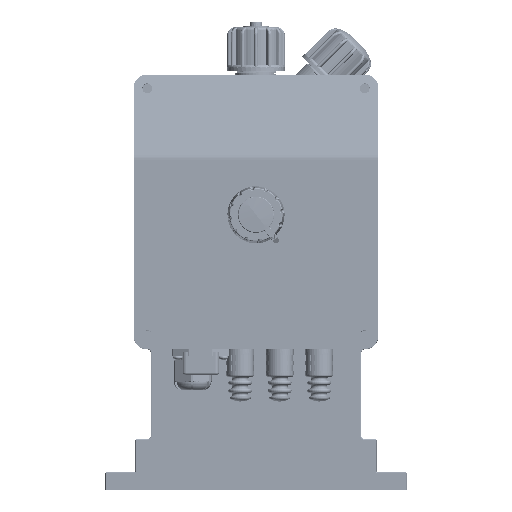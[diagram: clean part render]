
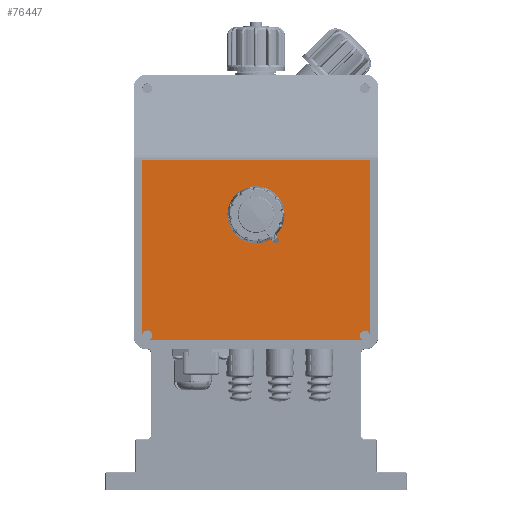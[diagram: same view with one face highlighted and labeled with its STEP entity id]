
A CAD part, top view. The second image highlights one B-rep face of the part: STEP entity #76447.
In plain terms, the highlighted planar face has unit normal (0, 0, 1) as drawn and (0, 0, -1) by its records, which use the part's own axes.
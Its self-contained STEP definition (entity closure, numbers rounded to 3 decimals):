
#2838 = AXIS2_PLACEMENT_3D ( 'NONE', #161219, #72800, #176074 ) ;
#3270 = ORIENTED_EDGE ( 'NONE', *, *, #92428, .F. ) ;
#5489 = EDGE_CURVE ( 'NONE', #176859, #31584, #140353, .T. ) ;
#6623 = EDGE_CURVE ( 'NONE', #33475, #31584, #10711, .T. ) ;
#8691 = DIRECTION ( 'NONE',  ( -1., 0., 0. ) ) ;
#10711 = LINE ( 'NONE', #128170, #40714 ) ;
#13046 = DIRECTION ( 'NONE',  ( 0., 1., 0. ) ) ;
#17607 = EDGE_CURVE ( 'NONE', #33475, #132598, #183330, .T. ) ;
#24869 = DIRECTION ( 'NONE',  ( 1., 0., 0. ) ) ;
#28415 = CARTESIAN_POINT ( 'NONE',  ( -57.51, 26.099, 10. ) ) ;
#28596 = EDGE_CURVE ( 'NONE', #132598, #110542, #87760, .T. ) ;
#28600 = VERTEX_POINT ( 'NONE', #146333 ) ;
#29628 = DIRECTION ( 'NONE',  ( -1., 0., 0. ) ) ;
#29912 = CARTESIAN_POINT ( 'NONE',  ( 52.49, -62.5, 10. ) ) ;
#30117 = CIRCLE ( 'NONE', #84918, 8.125 ) ;
#31584 = VERTEX_POINT ( 'NONE', #104092 ) ;
#32910 = EDGE_LOOP ( 'NONE', ( #166672, #3270 ) ) ;
#33475 = VERTEX_POINT ( 'NONE', #28415 ) ;
#33690 = FACE_BOUND ( 'NONE', #32910, .T. ) ;
#35422 = ORIENTED_EDGE ( 'NONE', *, *, #6623, .T. ) ;
#37335 = AXIS2_PLACEMENT_3D ( 'NONE', #137565, #49114, #152469 ) ;
#40714 = VECTOR ( 'NONE', #24869, 1000. ) ;
#43033 = FACE_OUTER_BOUND ( 'NONE', #120714, .T. ) ;
#48319 = EDGE_CURVE ( 'NONE', #110542, #160366, #132466, .T. ) ;
#49114 = DIRECTION ( 'NONE',  ( 0., 0., -1. ) ) ;
#49264 = CARTESIAN_POINT ( 'NONE',  ( -8.125, -1.5, 10. ) ) ;
#51002 = CARTESIAN_POINT ( 'NONE',  ( -57.51, -62.5, 10. ) ) ;
#54648 = AXIS2_PLACEMENT_3D ( 'NONE', #173047, #84573, #187950 ) ;
#56172 = LINE ( 'NONE', #173425, #164681 ) ;
#58723 = CARTESIAN_POINT ( 'NONE',  ( 50., -65., 10. ) ) ;
#63542 = ORIENTED_EDGE ( 'NONE', *, *, #158303, .F. ) ;
#64914 = AXIS2_PLACEMENT_3D ( 'NONE', #185650, #97143, #8691 ) ;
#65149 = AXIS2_PLACEMENT_3D ( 'NONE', #86644, #189981, #101485 ) ;
#66518 = CARTESIAN_POINT ( 'NONE',  ( 0., -1.5, 10. ) ) ;
#71652 = DIRECTION ( 'NONE',  ( 0., -1., 0. ) ) ;
#72800 = DIRECTION ( 'NONE',  ( 0., 0., -1. ) ) ;
#74954 = EDGE_CURVE ( 'NONE', #28600, #142628, #140989, .T. ) ;
#76447 = ADVANCED_FACE ( 'NONE', ( #43033, #33690 ), #103252, .T. ) ;
#79707 = ORIENTED_EDGE ( 'NONE', *, *, #17607, .F. ) ;
#81332 = DIRECTION ( 'NONE',  ( -1., 0., 0. ) ) ;
#84573 = DIRECTION ( 'NONE',  ( 0., 0., -1. ) ) ;
#84918 = AXIS2_PLACEMENT_3D ( 'NONE', #66518, #169745, #81332 ) ;
#86644 = CARTESIAN_POINT ( 'NONE',  ( 55., -62.5, 10. ) ) ;
#87760 = CIRCLE ( 'NONE', #2838, 2.51 ) ;
#90681 = ORIENTED_EDGE ( 'NONE', *, *, #5489, .F. ) ;
#92428 = EDGE_CURVE ( 'NONE', #142628, #28600, #30117, .T. ) ;
#97143 = DIRECTION ( 'NONE',  ( 0., 0., -1. ) ) ;
#97994 = CIRCLE ( 'NONE', #64914, 2.51 ) ;
#99792 = DIRECTION ( 'NONE',  ( 1., 0., 0. ) ) ;
#99846 = VERTEX_POINT ( 'NONE', #29912 ) ;
#100143 = VECTOR ( 'NONE', #71652, 1000. ) ;
#101122 = VECTOR ( 'NONE', #13046, 1000. ) ;
#101485 = DIRECTION ( 'NONE',  ( -1., 0., 0. ) ) ;
#101514 = CARTESIAN_POINT ( 'NONE',  ( 57.51, 62.5, 10. ) ) ;
#103252 = PLANE ( 'NONE',  #144589 ) ;
#104092 = CARTESIAN_POINT ( 'NONE',  ( 57.51, 26.099, 10. ) ) ;
#110542 = VERTEX_POINT ( 'NONE', #111016 ) ;
#111016 = CARTESIAN_POINT ( 'NONE',  ( -52.49, -62.5, 10. ) ) ;
#115599 = EDGE_CURVE ( 'NONE', #160366, #145961, #56172, .T. ) ;
#118097 = DIRECTION ( 'NONE',  ( 0., 0., -1. ) ) ;
#120714 = EDGE_LOOP ( 'NONE', ( #131907, #79707, #35422, #90681, #159011, #63542, #157211, #167557 ) ) ;
#121706 = CIRCLE ( 'NONE', #65149, 2.51 ) ;
#128170 = CARTESIAN_POINT ( 'NONE',  ( 50., 26.099, 10. ) ) ;
#129697 = CARTESIAN_POINT ( 'NONE',  ( -57.51, -62.5, 10. ) ) ;
#131907 = ORIENTED_EDGE ( 'NONE', *, *, #28596, .F. ) ;
#132466 = CIRCLE ( 'NONE', #37335, 2.51 ) ;
#132598 = VERTEX_POINT ( 'NONE', #51002 ) ;
#137565 = CARTESIAN_POINT ( 'NONE',  ( -55., -62.5, 10. ) ) ;
#140353 = LINE ( 'NONE', #101514, #101122 ) ;
#140989 = CIRCLE ( 'NONE', #54648, 8.125 ) ;
#142628 = VERTEX_POINT ( 'NONE', #49264 ) ;
#144589 = AXIS2_PLACEMENT_3D ( 'NONE', #58723, #118097, #29628 ) ;
#145961 = VERTEX_POINT ( 'NONE', #151003 ) ;
#146333 = CARTESIAN_POINT ( 'NONE',  ( 8.125, -1.5, 10. ) ) ;
#146669 = EDGE_CURVE ( 'NONE', #99846, #176859, #97994, .T. ) ;
#151003 = CARTESIAN_POINT ( 'NONE',  ( 55., -65.01, 10. ) ) ;
#152469 = DIRECTION ( 'NONE',  ( -1., 0., 0. ) ) ;
#155192 = CARTESIAN_POINT ( 'NONE',  ( 57.51, -62.5, 10. ) ) ;
#157211 = ORIENTED_EDGE ( 'NONE', *, *, #115599, .F. ) ;
#158303 = EDGE_CURVE ( 'NONE', #145961, #99846, #121706, .T. ) ;
#159011 = ORIENTED_EDGE ( 'NONE', *, *, #146669, .F. ) ;
#160366 = VERTEX_POINT ( 'NONE', #185572 ) ;
#161219 = CARTESIAN_POINT ( 'NONE',  ( -55., -62.5, 10. ) ) ;
#164681 = VECTOR ( 'NONE', #99792, 1000. ) ;
#166672 = ORIENTED_EDGE ( 'NONE', *, *, #74954, .F. ) ;
#167557 = ORIENTED_EDGE ( 'NONE', *, *, #48319, .F. ) ;
#169745 = DIRECTION ( 'NONE',  ( 0., 0., -1. ) ) ;
#173047 = CARTESIAN_POINT ( 'NONE',  ( 0., -1.5, 10. ) ) ;
#173425 = CARTESIAN_POINT ( 'NONE',  ( 55., -65.01, 10. ) ) ;
#176074 = DIRECTION ( 'NONE',  ( -1., 0., 0. ) ) ;
#176859 = VERTEX_POINT ( 'NONE', #155192 ) ;
#183330 = LINE ( 'NONE', #129697, #100143 ) ;
#185572 = CARTESIAN_POINT ( 'NONE',  ( -55., -65.01, 10. ) ) ;
#185650 = CARTESIAN_POINT ( 'NONE',  ( 55., -62.5, 10. ) ) ;
#187950 = DIRECTION ( 'NONE',  ( -1., 0., 0. ) ) ;
#189981 = DIRECTION ( 'NONE',  ( 0., 0., -1. ) ) ;
